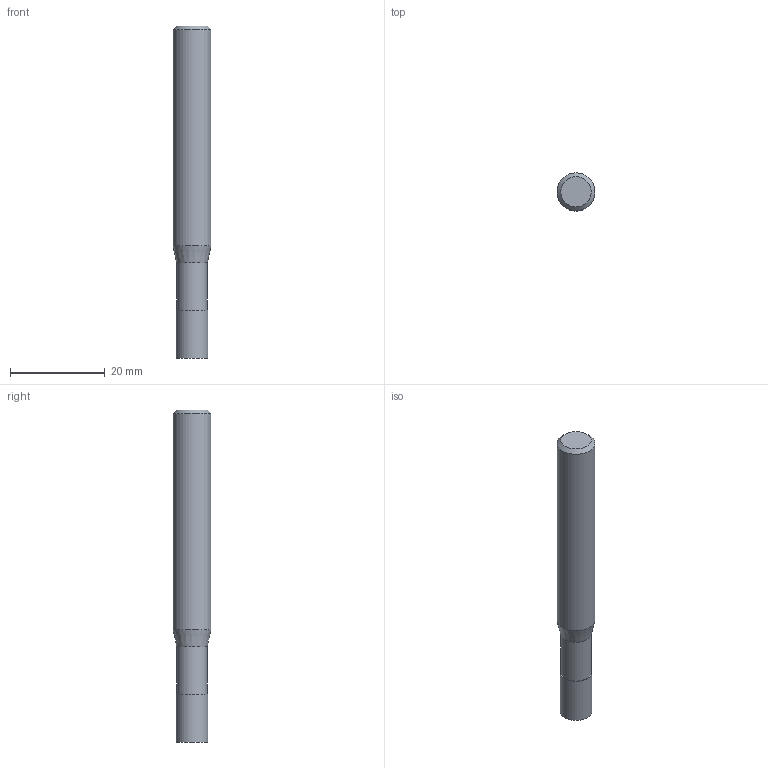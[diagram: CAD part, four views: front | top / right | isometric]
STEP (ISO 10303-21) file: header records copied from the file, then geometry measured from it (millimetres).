
FILE_DESCRIPTION((''),'2;1');
FILE_NAME('C:\Users\nsx150\AppData\Local\Temp\Mastercam 2021\EUJSUNXURU\TEMP.step','2021-04-22T10:29:02',(''),(''),'STEP Write','Mastercam 2021 ... CNC Software, Inc.','');
FILE_SCHEMA(('AUTOMOTIVE_DESIGN'));
Length unit declared in the file: millimetre
Products named in the file (1): None
Bounding box: 8 x 8 x 70 mm (x, y, z)
Volume: 3157.5 mm3; surface area: 1805.8 mm2
Topology: 2 solids, 2 shells, 9 faces, 12 edges, 7 vertices
Faces by surface type: plane 4, cylinder 3, cone 2
Full cylindrical faces by diameter (mm): 6.5 x1, 6.7 x1, 8 x1
Entity records: 211 total; most frequent: DIRECTION 36, CARTESIAN_POINT 25, AXIS2_PLACEMENT_3D 18, ORIENTED_EDGE 14, EDGE_LOOP 14, STYLED_ITEM 12, ADVANCED_FACE 9, FACE_BOUND 8
